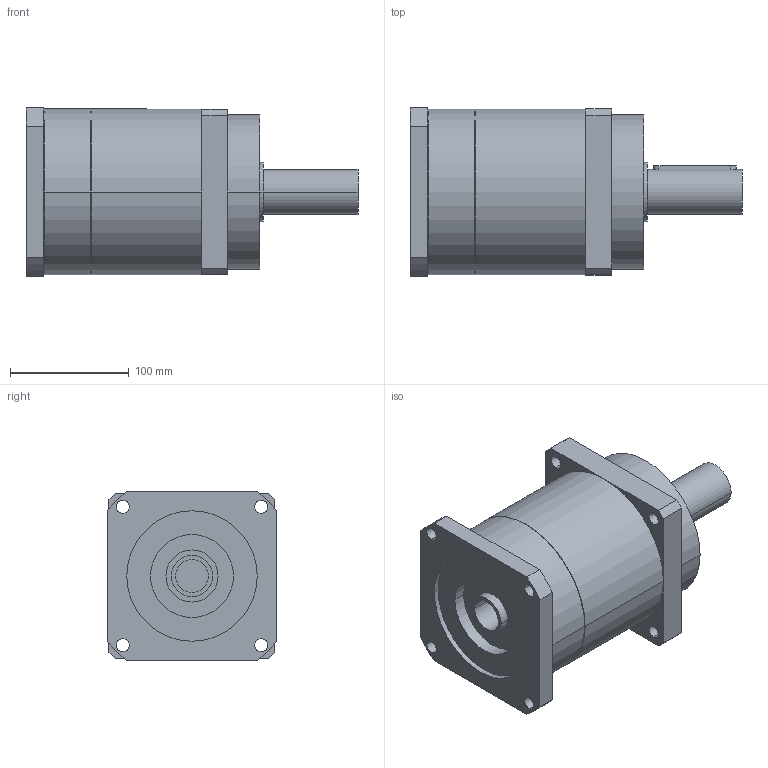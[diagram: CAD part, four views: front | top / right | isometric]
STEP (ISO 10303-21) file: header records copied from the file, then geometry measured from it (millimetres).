
FILE_DESCRIPTION(('CoCreate Modeling STEP Export'),'2;1');
FILE_NAME('GPR150_ig-3-4-5-7_38_B5_28_P14.stp','2014-08-19T16:42:48',(''),(''),'CoCreate Modeling STEP processor for AP214 (Solid Model)','CoCreate Modeling 16.00C 25-Feb-2009 (C) Parametric Technology GmbH','');
FILE_SCHEMA(('AUTOMOTIVE_DESIGN { 1 0 10303 214 1 1 1 1 }'));
Length unit declared in the file: millimetre
Products named in the file (2): GPR150_ig-3-4-5-7_38_B5_28_P14
Assembly tree (1 placements, depth 2):
  GPR150_ig-3-4-5-7_38_B5_28_P14
    GPR150_ig-3-4-5-7_38_B5_28_P14
Bounding box: 280 x 142 x 142 mm (x, y, z)
Volume: 3091432.8 mm3; surface area: 163730.3 mm2
Topology: 1 solids, 1 shells, 81 faces, 220 edges, 150 vertices
Faces by surface type: cylinder 48, plane 27, cone 6
Entity records: 2325 total; most frequent: ORIENTED_EDGE 436, CARTESIAN_POINT 431, DIRECTION 330, EDGE_CURVE 218, VERTEX_POINT 150, AXIS2_PLACEMENT_3D 121, EDGE_LOOP 108, VECTOR 88
